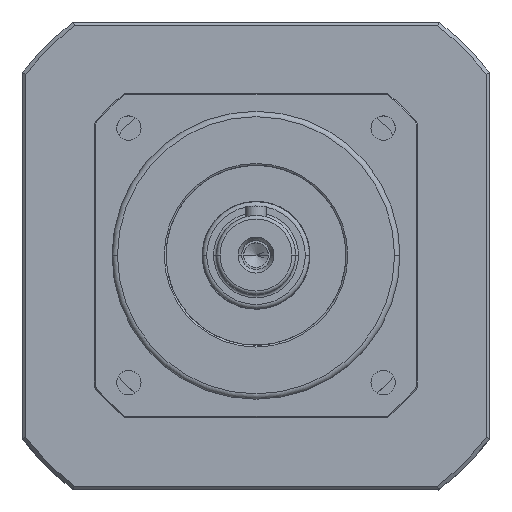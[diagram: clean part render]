
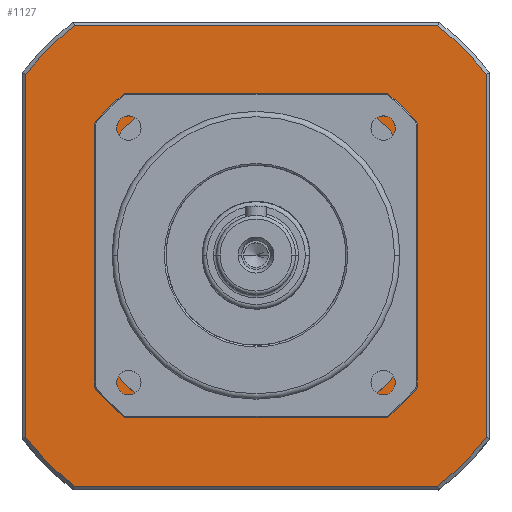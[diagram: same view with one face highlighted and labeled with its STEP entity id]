
A CAD part, top view. The second image highlights one B-rep face of the part: STEP entity #1127.
In plain terms, the highlighted planar face has unit normal (0, 0, 1).
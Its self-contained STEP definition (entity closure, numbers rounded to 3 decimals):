
#1127 = ADVANCED_FACE ( 'NONE', ( #16810, #16811 ), #8370, .T. ) ;
#3623 = LINE ( 'NONE', #12129, #16257 ) ;
#3624 = LINE ( 'NONE', #12137, #16261 ) ;
#3625 = LINE ( 'NONE', #12142, #16264 ) ;
#3626 = LINE ( 'NONE', #12150, #16269 ) ;
#3627 = LINE ( 'NONE', #16064, #16271 ) ;
#4741 = EDGE_CURVE ( 'NONE', #14113, #14108, #3623, .T. ) ;
#4742 = EDGE_CURVE ( 'NONE', #14109, #14113, #16256, .T. ) ;
#4743 = EDGE_CURVE ( 'NONE', #14108, #14098, #16246, .T. ) ;
#4744 = EDGE_CURVE ( 'NONE', #14098, #14095, #3624, .T. ) ;
#4745 = EDGE_CURVE ( 'NONE', #14095, #14112, #16252, .T. ) ;
#4746 = EDGE_CURVE ( 'NONE', #14112, #14117, #3625, .T. ) ;
#4747 = EDGE_CURVE ( 'NONE', #14117, #14114, #16255, .T. ) ;
#4748 = EDGE_CURVE ( 'NONE', #14116, #14093, #16259, .T. ) ;
#4749 = EDGE_CURVE ( 'NONE', #14114, #14109, #3626, .T. ) ;
#4750 = EDGE_CURVE ( 'NONE', #14093, #14115, #3627, .T. ) ;
#6867 = CARTESIAN_POINT ( 'NONE',  ( -23.998, 45.001, -90.5 ) ) ;
#6868 = DIRECTION ( 'NONE',  ( -1., 0., 0. ) ) ;
#6869 = CARTESIAN_POINT ( 'NONE',  ( 0., 0., -90.5 ) ) ;
#6870 = DIRECTION ( 'NONE',  ( 0., 0., 1. ) ) ;
#6871 = DIRECTION ( 'NONE',  ( 1., 0., 0. ) ) ;
#6872 = CARTESIAN_POINT ( 'NONE',  ( 45.001, 23.998, -90.5 ) ) ;
#6873 = DIRECTION ( 'NONE',  ( 0., 1., 0. ) ) ;
#6874 = CARTESIAN_POINT ( 'NONE',  ( 0., 0., -90.5 ) ) ;
#6875 = DIRECTION ( 'NONE',  ( 0., 0., 1. ) ) ;
#6876 = DIRECTION ( 'NONE',  ( 1., 0., 0. ) ) ;
#6877 = CARTESIAN_POINT ( 'NONE',  ( -24.002, -44.999, -90.5 ) ) ;
#6878 = DIRECTION ( 'NONE',  ( 1., 0., 0. ) ) ;
#6879 = CARTESIAN_POINT ( 'NONE',  ( 0., 0., -90.5 ) ) ;
#6880 = DIRECTION ( 'NONE',  ( 0., 0., 1. ) ) ;
#6881 = DIRECTION ( 'NONE',  ( 1., 0., 0. ) ) ;
#7672 = LINE ( 'NONE', #6867, #8166 ) ;
#7674 = LINE ( 'NONE', #6872, #8170 ) ;
#7675 = LINE ( 'NONE', #6877, #8174 ) ;
#8165 = CIRCLE ( 'NONE', #8167, 51. ) ;
#8166 = VECTOR ( 'NONE', #6868, 1000. ) ;
#8167 = AXIS2_PLACEMENT_3D ( 'NONE', #6869, #6870, #6871 ) ;
#8169 = CIRCLE ( 'NONE', #8171, 51. ) ;
#8170 = VECTOR ( 'NONE', #6873, 1000. ) ;
#8171 = AXIS2_PLACEMENT_3D ( 'NONE', #6874, #6875, #6876 ) ;
#8173 = CIRCLE ( 'NONE', #8175, 51. ) ;
#8174 = VECTOR ( 'NONE', #6878, 1000. ) ;
#8175 = AXIS2_PLACEMENT_3D ( 'NONE', #6879, #6880, #6881 ) ;
#8370 = PLANE ( 'NONE',  #10578 ) ;
#8371 = CARTESIAN_POINT ( 'NONE',  ( 0., 0., -90.5 ) ) ;
#8372 = DIRECTION ( 'NONE',  ( 0., 0., 1. ) ) ;
#8373 = DIRECTION ( 'NONE',  ( 1., 0., 0. ) ) ;
#9449 = CARTESIAN_POINT ( 'NONE',  ( -44.999, 24.002, -90.5 ) ) ;
#9451 = CARTESIAN_POINT ( 'NONE',  ( -50.457, 64.003, -90.5 ) ) ;
#9454 = CARTESIAN_POINT ( 'NONE',  ( 50.464, 63.997, -90.5 ) ) ;
#9464 = CARTESIAN_POINT ( 'NONE',  ( 64.003, 50.457, -90.5 ) ) ;
#9465 = CARTESIAN_POINT ( 'NONE',  ( 50.457, -64.003, -90.5 ) ) ;
#9468 = CARTESIAN_POINT ( 'NONE',  ( -63.997, 50.464, -90.5 ) ) ;
#9469 = CARTESIAN_POINT ( 'NONE',  ( 63.997, -50.464, -90.5 ) ) ;
#9470 = CARTESIAN_POINT ( 'NONE',  ( -50.464, -63.997, -90.5 ) ) ;
#9471 = CARTESIAN_POINT ( 'NONE',  ( -45.001, -23.998, -90.5 ) ) ;
#9472 = CARTESIAN_POINT ( 'NONE',  ( -23.998, 45.001, -90.5 ) ) ;
#9473 = CARTESIAN_POINT ( 'NONE',  ( -64.003, -50.457, -90.5 ) ) ;
#9478 = CARTESIAN_POINT ( 'NONE',  ( 45.001, 23.998, -90.5 ) ) ;
#9479 = CARTESIAN_POINT ( 'NONE',  ( 44.999, -24.002, -90.5 ) ) ;
#9482 = CARTESIAN_POINT ( 'NONE',  ( -24.002, -44.999, -90.5 ) ) ;
#9483 = CARTESIAN_POINT ( 'NONE',  ( 24.002, 44.999, -90.5 ) ) ;
#9486 = CARTESIAN_POINT ( 'NONE',  ( 23.998, -45.001, -90.5 ) ) ;
#9777 = EDGE_CURVE ( 'NONE', #14127, #14116, #7672, .T. ) ;
#9778 = EDGE_CURVE ( 'NONE', #14122, #14127, #8165, .T. ) ;
#9779 = EDGE_CURVE ( 'NONE', #14123, #14122, #7674, .T. ) ;
#9780 = EDGE_CURVE ( 'NONE', #14130, #14123, #8169, .T. ) ;
#9781 = EDGE_CURVE ( 'NONE', #14126, #14130, #7675, .T. ) ;
#9782 = EDGE_CURVE ( 'NONE', #14115, #14126, #8173, .T. ) ;
#10578 = AXIS2_PLACEMENT_3D ( 'NONE', #8371, #8372, #8373 ) ;
#11732 = EDGE_LOOP ( 'NONE', ( #11853, #11855, #11854, #11856, #11857, #11858, #11859, #11860 ) ) ;
#11733 = EDGE_LOOP ( 'NONE', ( #11861, #11863, #11862, #11864, #13917, #13918, #13919, #13920 ) ) ;
#11853 = ORIENTED_EDGE ( 'NONE', *, *, #4742, .T. ) ;
#11854 = ORIENTED_EDGE ( 'NONE', *, *, #4743, .T. ) ;
#11855 = ORIENTED_EDGE ( 'NONE', *, *, #4741, .T. ) ;
#11856 = ORIENTED_EDGE ( 'NONE', *, *, #4744, .T. ) ;
#11857 = ORIENTED_EDGE ( 'NONE', *, *, #4745, .T. ) ;
#11858 = ORIENTED_EDGE ( 'NONE', *, *, #4746, .T. ) ;
#11859 = ORIENTED_EDGE ( 'NONE', *, *, #4747, .T. ) ;
#11860 = ORIENTED_EDGE ( 'NONE', *, *, #4749, .T. ) ;
#11861 = ORIENTED_EDGE ( 'NONE', *, *, #4750, .F. ) ;
#11862 = ORIENTED_EDGE ( 'NONE', *, *, #9777, .F. ) ;
#11863 = ORIENTED_EDGE ( 'NONE', *, *, #4748, .F. ) ;
#11864 = ORIENTED_EDGE ( 'NONE', *, *, #9778, .F. ) ;
#12129 = CARTESIAN_POINT ( 'NONE',  ( 64., -0.003, -90.5 ) ) ;
#12130 = DIRECTION ( 'NONE',  ( 0., 1., 0. ) ) ;
#12131 = CARTESIAN_POINT ( 'NONE',  ( 0., 0., -90.5 ) ) ;
#12132 = DIRECTION ( 'NONE',  ( 0., 0., 1. ) ) ;
#12133 = DIRECTION ( 'NONE',  ( 1., 0., 0. ) ) ;
#12134 = CARTESIAN_POINT ( 'NONE',  ( 0., 0., -90.5 ) ) ;
#12135 = DIRECTION ( 'NONE',  ( 0., 0., 1. ) ) ;
#12136 = DIRECTION ( 'NONE',  ( 1., 0., 0. ) ) ;
#12137 = CARTESIAN_POINT ( 'NONE',  ( 0.003, 64., -90.5 ) ) ;
#12138 = DIRECTION ( 'NONE',  ( -1., 0., 0. ) ) ;
#12139 = CARTESIAN_POINT ( 'NONE',  ( 0., 0., -90.5 ) ) ;
#12140 = DIRECTION ( 'NONE',  ( 0., 0., 1. ) ) ;
#12141 = DIRECTION ( 'NONE',  ( 1., 0., 0. ) ) ;
#12142 = CARTESIAN_POINT ( 'NONE',  ( -64., 0.003, -90.5 ) ) ;
#12143 = DIRECTION ( 'NONE',  ( 0., -1., 0. ) ) ;
#12144 = CARTESIAN_POINT ( 'NONE',  ( 0., 0., -90.5 ) ) ;
#12145 = DIRECTION ( 'NONE',  ( 0., 0., 1. ) ) ;
#12146 = DIRECTION ( 'NONE',  ( 1., 0., 0. ) ) ;
#12147 = CARTESIAN_POINT ( 'NONE',  ( 0., 0., -90.5 ) ) ;
#12148 = DIRECTION ( 'NONE',  ( 0., 0., 1. ) ) ;
#12149 = DIRECTION ( 'NONE',  ( 1., 0., 0. ) ) ;
#12150 = CARTESIAN_POINT ( 'NONE',  ( -0.003, -64., -90.5 ) ) ;
#12151 = DIRECTION ( 'NONE',  ( 1., 0., 0. ) ) ;
#13917 = ORIENTED_EDGE ( 'NONE', *, *, #9779, .F. ) ;
#13918 = ORIENTED_EDGE ( 'NONE', *, *, #9780, .F. ) ;
#13919 = ORIENTED_EDGE ( 'NONE', *, *, #9781, .F. ) ;
#13920 = ORIENTED_EDGE ( 'NONE', *, *, #9782, .F. ) ;
#14093 = VERTEX_POINT ( 'NONE', #9449 ) ;
#14095 = VERTEX_POINT ( 'NONE', #9451 ) ;
#14098 = VERTEX_POINT ( 'NONE', #9454 ) ;
#14108 = VERTEX_POINT ( 'NONE', #9464 ) ;
#14109 = VERTEX_POINT ( 'NONE', #9465 ) ;
#14112 = VERTEX_POINT ( 'NONE', #9468 ) ;
#14113 = VERTEX_POINT ( 'NONE', #9469 ) ;
#14114 = VERTEX_POINT ( 'NONE', #9470 ) ;
#14115 = VERTEX_POINT ( 'NONE', #9471 ) ;
#14116 = VERTEX_POINT ( 'NONE', #9472 ) ;
#14117 = VERTEX_POINT ( 'NONE', #9473 ) ;
#14122 = VERTEX_POINT ( 'NONE', #9478 ) ;
#14123 = VERTEX_POINT ( 'NONE', #9479 ) ;
#14126 = VERTEX_POINT ( 'NONE', #9482 ) ;
#14127 = VERTEX_POINT ( 'NONE', #9483 ) ;
#14130 = VERTEX_POINT ( 'NONE', #9486 ) ;
#16064 = CARTESIAN_POINT ( 'NONE',  ( -44.999, 24.002, -90.5 ) ) ;
#16065 = DIRECTION ( 'NONE',  ( 0., -1., 0. ) ) ;
#16246 = CIRCLE ( 'NONE', #16260, 81.5 ) ;
#16252 = CIRCLE ( 'NONE', #16262, 81.5 ) ;
#16255 = CIRCLE ( 'NONE', #16265, 81.5 ) ;
#16256 = CIRCLE ( 'NONE', #16258, 81.5 ) ;
#16257 = VECTOR ( 'NONE', #12130, 1000. ) ;
#16258 = AXIS2_PLACEMENT_3D ( 'NONE', #12131, #12132, #12133 ) ;
#16259 = CIRCLE ( 'NONE', #16267, 51. ) ;
#16260 = AXIS2_PLACEMENT_3D ( 'NONE', #12134, #12135, #12136 ) ;
#16261 = VECTOR ( 'NONE', #12138, 1000. ) ;
#16262 = AXIS2_PLACEMENT_3D ( 'NONE', #12139, #12140, #12141 ) ;
#16264 = VECTOR ( 'NONE', #12143, 1000. ) ;
#16265 = AXIS2_PLACEMENT_3D ( 'NONE', #12144, #12145, #12146 ) ;
#16267 = AXIS2_PLACEMENT_3D ( 'NONE', #12147, #12148, #12149 ) ;
#16269 = VECTOR ( 'NONE', #12151, 1000. ) ;
#16271 = VECTOR ( 'NONE', #16065, 1000. ) ;
#16810 = FACE_OUTER_BOUND ( 'NONE', #11732, .T. ) ;
#16811 = FACE_BOUND ( 'NONE', #11733, .T. ) ;
